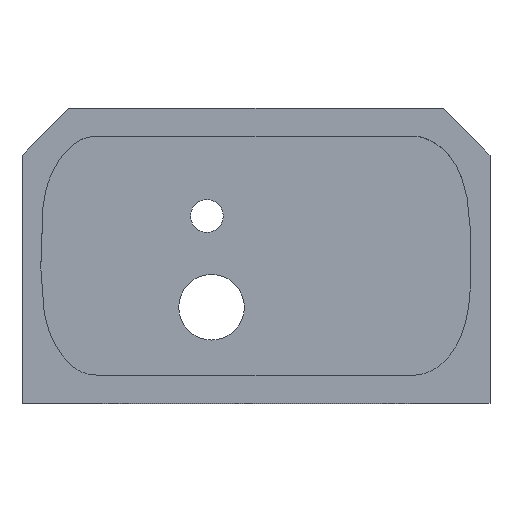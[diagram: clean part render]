
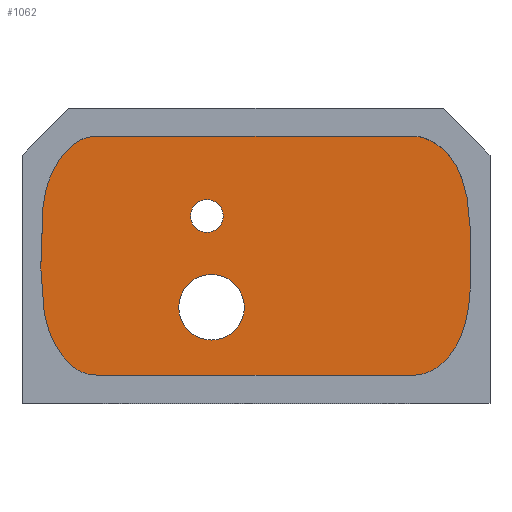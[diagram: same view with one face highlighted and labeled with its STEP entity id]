
A CAD part, top view. The second image highlights one B-rep face of the part: STEP entity #1062.
In plain terms, the highlighted planar face has unit normal (0, 0, 1).
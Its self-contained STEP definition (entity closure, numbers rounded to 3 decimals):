
#39=(
BOUNDED_CURVE()
B_SPLINE_CURVE(5,(#2036,#2037,#2038,#2039,#2040,#2041,#2042,#2043,#2044,
#2045,#2046,#2047,#2048,#2049,#2050,#2051,#2052,#2053,#2054,#2055,#2056,
#2057,#2058,#2059,#2060),.UNSPECIFIED.,.F.,.F.)
B_SPLINE_CURVE_WITH_KNOTS((6,1,1,1,1,1,1,1,1,1,1,1,1,1,1,1,1,1,1,1,6),(-1.,
-0.95,-0.9,-0.85,-0.8,-0.75,-0.7,-0.65,-0.6,-0.55,-0.5,-0.45,-0.4,-0.35,
-0.3,-0.25,-0.2,-0.15,-0.1,-0.05,0.),.UNSPECIFIED.)
CURVE()
GEOMETRIC_REPRESENTATION_ITEM()
RATIONAL_B_SPLINE_CURVE((1.,1.,1.,1.,1.,1.,1.,1.,1.,1.,1.,1.,1.,1.,1.,1.,
1.,1.,1.,1.,1.,1.,1.,1.,1.))
REPRESENTATION_ITEM('')
);
#40=(
BOUNDED_CURVE()
B_SPLINE_CURVE(5,(#2621,#2622,#2623,#2624,#2625,#2626,#2627,#2628,#2629,
#2630,#2631,#2632,#2633,#2634,#2635,#2636,#2637,#2638,#2639,#2640,#2641,
#2642,#2643,#2644,#2645),.UNSPECIFIED.,.F.,.F.)
B_SPLINE_CURVE_WITH_KNOTS((6,1,1,1,1,1,1,1,1,1,1,1,1,1,1,1,1,1,1,1,6),(0.,
0.05,0.1,0.15,0.2,0.25,0.3,0.35,0.4,0.45,0.5,0.55,0.6,0.65,0.7,0.75,0.8,
0.85,0.9,0.95,1.),.UNSPECIFIED.)
CURVE()
GEOMETRIC_REPRESENTATION_ITEM()
RATIONAL_B_SPLINE_CURVE((1.,1.,1.,1.,1.,1.,1.,1.,1.,1.,1.,1.,1.,1.,1.,1.,
1.,1.,1.,1.,1.,1.,1.,1.,1.))
REPRESENTATION_ITEM('')
);
#97=LINE('',#1982,#183);
#114=LINE('',#2118,#200);
#183=VECTOR('',#1232,10.);
#200=VECTOR('',#1301,10.);
#267=FACE_BOUND('',#397,.T.);
#268=FACE_BOUND('',#398,.T.);
#316=FACE_OUTER_BOUND('',#396,.T.);
#396=EDGE_LOOP('',(#911,#912,#913,#914));
#397=EDGE_LOOP('',(#915));
#398=EDGE_LOOP('',(#916));
#445=CIRCLE('',#1151,3.5);
#446=CIRCLE('',#1152,7.);
#486=VERTEX_POINT('',#1979);
#487=VERTEX_POINT('',#1981);
#488=VERTEX_POINT('',#2034);
#505=VERTEX_POINT('',#2116);
#533=VERTEX_POINT('',#2646);
#534=VERTEX_POINT('',#2648);
#592=EDGE_CURVE('',#487,#486,#97,.T.);
#595=EDGE_CURVE('',#486,#488,#39,.T.);
#622=EDGE_CURVE('',#488,#505,#114,.T.);
#665=EDGE_CURVE('',#505,#487,#40,.T.);
#666=EDGE_CURVE('',#533,#533,#445,.T.);
#667=EDGE_CURVE('',#534,#534,#446,.T.);
#911=ORIENTED_EDGE('',*,*,#622,.T.);
#912=ORIENTED_EDGE('',*,*,#665,.T.);
#913=ORIENTED_EDGE('',*,*,#592,.T.);
#914=ORIENTED_EDGE('',*,*,#595,.T.);
#915=ORIENTED_EDGE('',*,*,#666,.F.);
#916=ORIENTED_EDGE('',*,*,#667,.F.);
#1016=PLANE('',#1150);
#1062=ADVANCED_FACE('',(#316,#267,#268),#1016,.F.);
#1150=AXIS2_PLACEMENT_3D('',#2620,#1353,#1354);
#1151=AXIS2_PLACEMENT_3D('',#2647,#1355,#1356);
#1152=AXIS2_PLACEMENT_3D('',#2649,#1357,#1358);
#1232=DIRECTION('',(1.,0.,0.));
#1301=DIRECTION('',(-1.,0.,0.));
#1353=DIRECTION('center_axis',(0.,0.,-1.));
#1354=DIRECTION('ref_axis',(-1.,0.,0.));
#1355=DIRECTION('center_axis',(0.,0.,1.));
#1356=DIRECTION('ref_axis',(-1.,0.,0.));
#1357=DIRECTION('center_axis',(0.,0.,1.));
#1358=DIRECTION('ref_axis',(-1.,0.,0.));
#1979=CARTESIAN_POINT('',(84.,6.,-19.));
#1981=CARTESIAN_POINT('',(16.,6.,-19.));
#1982=CARTESIAN_POINT('',(96.,6.,-19.));
#2034=CARTESIAN_POINT('',(84.,57.,-19.));
#2036=CARTESIAN_POINT('Ctrl Pts',(84.,6.,-19.));
#2037=CARTESIAN_POINT('Ctrl Pts',(84.377,6.,-19.));
#2038=CARTESIAN_POINT('Ctrl Pts',(85.145,6.059,-19.));
#2039=CARTESIAN_POINT('Ctrl Pts',(86.338,6.322,-19.));
#2040=CARTESIAN_POINT('Ctrl Pts',(87.996,7.035,-19.));
#2041=CARTESIAN_POINT('Ctrl Pts',(90.064,8.558,-19.));
#2042=CARTESIAN_POINT('Ctrl Pts',(91.983,10.723,-19.));
#2043=CARTESIAN_POINT('Ctrl Pts',(93.576,13.445,-19.));
#2044=CARTESIAN_POINT('Ctrl Pts',(94.732,16.586,-19.));
#2045=CARTESIAN_POINT('Ctrl Pts',(95.469,20.047,-19.));
#2046=CARTESIAN_POINT('Ctrl Pts',(95.86,23.738,-19.));
#2047=CARTESIAN_POINT('Ctrl Pts',(96.013,27.58,-19.));
#2048=CARTESIAN_POINT('Ctrl Pts',(96.023,31.499,-19.));
#2049=CARTESIAN_POINT('Ctrl Pts',(95.943,35.422,-19.));
#2050=CARTESIAN_POINT('Ctrl Pts',(95.742,39.275,-19.));
#2051=CARTESIAN_POINT('Ctrl Pts',(95.34,42.975,-19.));
#2052=CARTESIAN_POINT('Ctrl Pts',(94.637,46.439,-19.));
#2053=CARTESIAN_POINT('Ctrl Pts',(93.541,49.571,-19.));
#2054=CARTESIAN_POINT('Ctrl Pts',(92.008,52.275,-19.));
#2055=CARTESIAN_POINT('Ctrl Pts',(90.049,54.427,-19.));
#2056=CARTESIAN_POINT('Ctrl Pts',(87.846,55.953,-19.));
#2057=CARTESIAN_POINT('Ctrl Pts',(86.13,56.673,-19.));
#2058=CARTESIAN_POINT('Ctrl Pts',(84.992,56.941,-19.));
#2059=CARTESIAN_POINT('Ctrl Pts',(84.317,57.,-19.));
#2060=CARTESIAN_POINT('Ctrl Pts',(84.,57.,-19.));
#2116=CARTESIAN_POINT('',(16.,57.,-19.));
#2118=CARTESIAN_POINT('',(4.,57.,-19.));
#2620=CARTESIAN_POINT('Origin',(50.,31.5,-19.));
#2621=CARTESIAN_POINT('Ctrl Pts',(16.,57.,-19.));
#2622=CARTESIAN_POINT('Ctrl Pts',(15.469,57.,-19.));
#2623=CARTESIAN_POINT('Ctrl Pts',(14.458,56.934,-19.));
#2624=CARTESIAN_POINT('Ctrl Pts',(13.095,56.637,-19.));
#2625=CARTESIAN_POINT('Ctrl Pts',(11.53,55.857,-19.));
#2626=CARTESIAN_POINT('Ctrl Pts',(9.782,54.307,-19.));
#2627=CARTESIAN_POINT('Ctrl Pts',(8.053,52.251,-19.));
#2628=CARTESIAN_POINT('Ctrl Pts',(6.475,49.712,-19.));
#2629=CARTESIAN_POINT('Ctrl Pts',(5.314,46.7,-19.));
#2630=CARTESIAN_POINT('Ctrl Pts',(4.569,43.278,-19.));
#2631=CARTESIAN_POINT('Ctrl Pts',(4.181,39.532,-19.));
#2632=CARTESIAN_POINT('Ctrl Pts',(4.023,35.568,-19.));
#2633=CARTESIAN_POINT('Ctrl Pts',(3.984,31.498,-19.));
#2634=CARTESIAN_POINT('Ctrl Pts',(4.006,27.438,-19.));
#2635=CARTESIAN_POINT('Ctrl Pts',(4.15,23.496,-19.));
#2636=CARTESIAN_POINT('Ctrl Pts',(4.531,19.772,-19.));
#2637=CARTESIAN_POINT('Ctrl Pts',(5.279,16.356,-19.));
#2638=CARTESIAN_POINT('Ctrl Pts',(6.453,13.324,-19.));
#2639=CARTESIAN_POINT('Ctrl Pts',(8.053,10.744,-19.));
#2640=CARTESIAN_POINT('Ctrl Pts',(9.808,8.66,-19.));
#2641=CARTESIAN_POINT('Ctrl Pts',(11.576,7.116,-19.));
#2642=CARTESIAN_POINT('Ctrl Pts',(13.14,6.353,-19.));
#2643=CARTESIAN_POINT('Ctrl Pts',(14.487,6.064,-19.));
#2644=CARTESIAN_POINT('Ctrl Pts',(15.48,6.,-19.));
#2645=CARTESIAN_POINT('Ctrl Pts',(16.,6.,-19.));
#2646=CARTESIAN_POINT('',(43.,40.,-19.));
#2647=CARTESIAN_POINT('Origin',(39.5,40.,-19.));
#2648=CARTESIAN_POINT('',(47.5,20.5,-19.));
#2649=CARTESIAN_POINT('Origin',(40.5,20.5,-19.));
